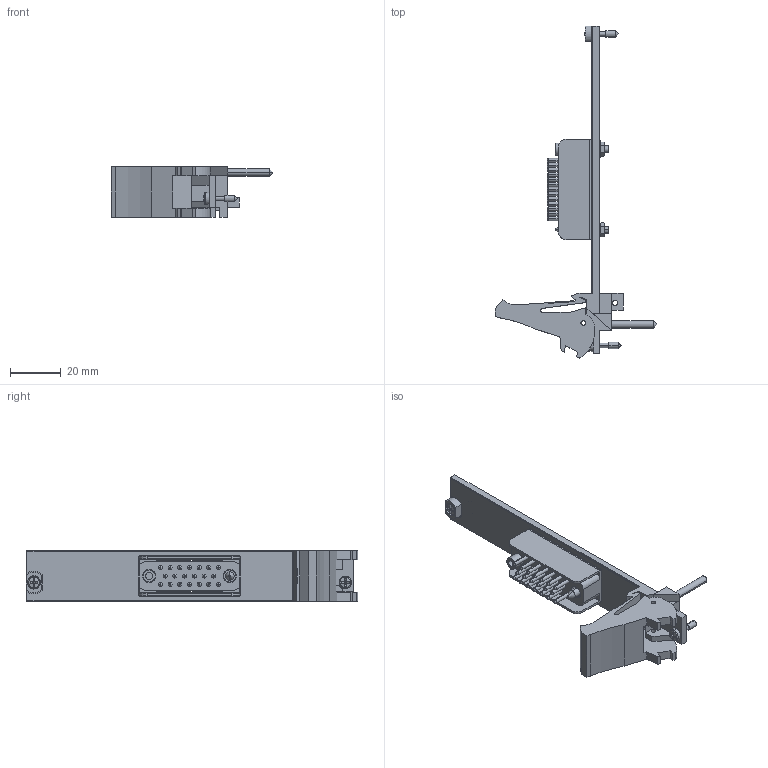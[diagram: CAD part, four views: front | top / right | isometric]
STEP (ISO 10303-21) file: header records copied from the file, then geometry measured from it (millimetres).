
FILE_DESCRIPTION((''),'2;1');
FILE_NAME('CU_PXI-2585','2009-11-09T',('jjorden'),(''),'PRO/ENGINEER BY PARAMETRIC TECHNOLOGY CORPORATION, 2006080','PRO/ENGINEER BY PARAMETRIC TECHNOLOGY CORPORATION, 2006080','');
FILE_SCHEMA(('CONFIG_CONTROL_DESIGN'));
Length unit declared in the file: inch
Products named in the file (1): CU_PXI-2585
Bounding box: 63.53 x 130.5 x 20.02 mm (x, y, z)
Volume: 19105.4 mm3; surface area: 18694.2 mm2
Topology: 2 solids, 2 shells, 646 faces, 1643 edges, 1023 vertices
Faces by surface type: plane 373, cylinder 203, bspline 40, cone 22, torus 4, sphere 4
Entity records: 21049 total; most frequent: CARTESIAN_POINT 5067, DIRECTION 3435, ORIENTED_EDGE 3278, EDGE_CURVE 1639, AXIS2_PLACEMENT_3D 1229, VERTEX_POINT 1023, VECTOR 977, LINE 977
